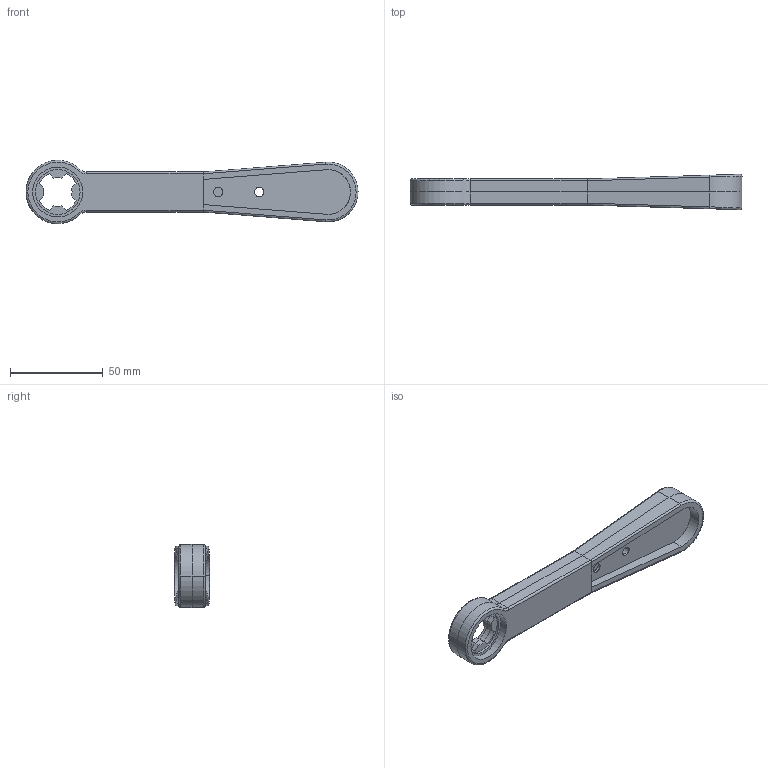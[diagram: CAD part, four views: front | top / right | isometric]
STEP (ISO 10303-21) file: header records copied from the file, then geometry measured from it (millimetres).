
FILE_DESCRIPTION (( 'STEP AP203' ), '1' );
FILE_NAME ('Ðóêîÿòêà áîêîâàÿ íåñúåìíàÿ (100-400À).STEP', '2014-06-25T10:52:39', ( 'admin' ), ( 'Microsoft' ), 'SwSTEP 2.0', 'SolidWorks 2007', '' );
FILE_SCHEMA (( 'CONFIG_CONTROL_DESIGN' ));
Length unit declared in the file: millimetre
Products named in the file (1): Ðóêîÿòêà áîêîâàÿ íåñúåìíàÿ (100-400À)
Bounding box: 179.42 x 19.09 x 34.2 mm (x, y, z)
Surface area: 22089.1 mm2 (no closed solid volume)
Topology: 0 solids, 3 shells, 122 faces, 354 edges, 236 vertices
Faces by surface type: cylinder 62, plane 50, torus 7, bspline 3
Entity records: 4304 total; most frequent: CARTESIAN_POINT 992, DIRECTION 706, ORIENTED_EDGE 630, EDGE_CURVE 354, AXIS2_PLACEMENT_3D 253, VERTEX_POINT 236, VECTOR 200, LINE 200
